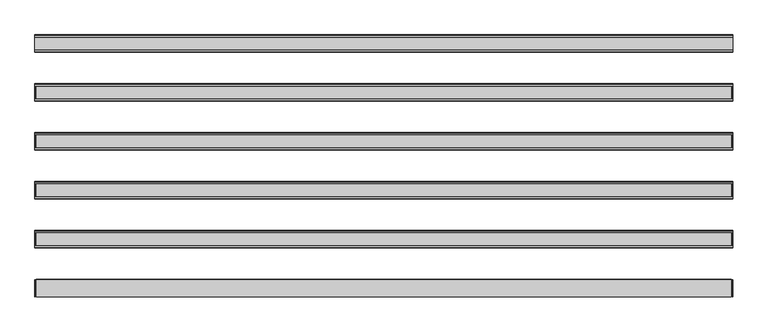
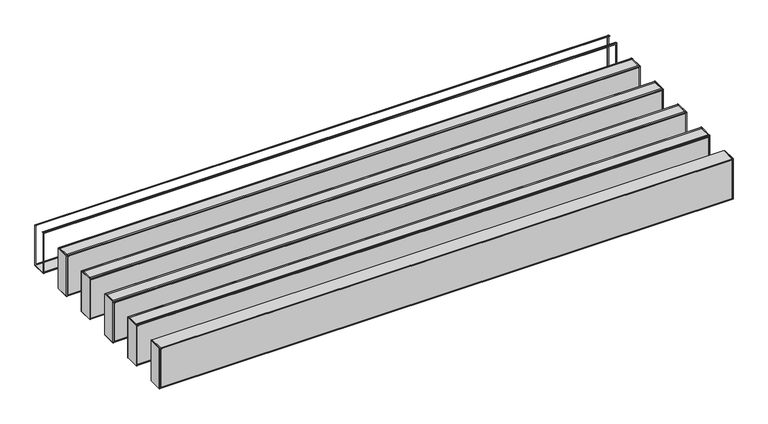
"""IFC4 building model written with IfcOpenShell, lengths in millimetres: proxy geometry, durlum_POLYLAM_KS : durlum_POLYLAM-KS/-S 100 RV-L6."""

from ifc_helpers import new_model, si_unit, frame, origin, place, context, project, spatial, polyline, circle_curve, outline, extrude, source, transform, mapped, element, save
from ifc_brep_helpers import plane_surface, cylinder_surface, advanced_brep


def generic_models_4634cb2f(model_context):
    return source(origin(), model_context, "Body", "SolidModel", [
        advanced_brep(
        [(1995.0, 328.0, 1990.9), (1995.0, 318.0, 1990.9), (1995.0, 318.0, 1990.0604454), (1995.0, 329.0, 1990.0604454), (1995.0, 329.0, 1691.9), (1995.0, 231.0, 1691.9), (1995.0, 231.0, 1989.8155735), (1995.0, 242.0, 1989.8155735), (1995.0, 242.0, 1990.9), (1995.0, 232.0, 1990.9), (1995.0, 230.0, 1988.9), (1995.0, 230.0, 1692.9), (1995.0, 232.0, 1690.9), (1995.0, 328.0, 1690.9), (1995.0, 330.0, 1692.9), (1995.0, 330.0, 1988.9), (-1995.0, 328.0, 1990.9), (-1995.0, 330.0, 1988.9), (-1995.0, 330.0, 1692.9), (-1995.0, 328.0, 1690.9), (-1995.0, 232.0, 1690.9), (-1995.0, 230.0, 1692.9), (-1995.0, 230.0, 1988.9), (-1995.0, 232.0, 1990.9), (-1995.0, 242.0, 1990.9), (-1995.0, 242.0, 1989.8155735), (-1995.0, 231.0, 1989.8155735), (-1995.0, 231.0, 1691.9), (-1995.0, 329.0, 1691.9), (-1995.0, 329.0, 1990.0604454), (-1995.0, 318.0, 1990.0604454), (-1995.0, 318.0, 1990.9), (-1986.5, 329.0, 1982.4), (1986.5, 329.0, 1982.4), (1986.5, 329.0, 1699.4), (-1986.5, 329.0, 1699.4), (1986.5, 231.0, 1982.4), (-1986.5, 231.0, 1982.4), (-1986.5, 231.0, 1699.4), (1986.5, 231.0, 1699.4), (-1986.5, 230.0, 1982.4), (1986.5, 230.0, 1982.4), (1986.5, 230.0, 1699.4), (-1986.5, 230.0, 1699.4), (1986.5, 330.0, 1982.4), (-1986.5, 330.0, 1982.4), (-1986.5, 330.0, 1699.4), (1986.5, 330.0, 1699.4)],
        [
            (0, 1),
            (1, 2),
            (2, 3),
            (3, 4),
            (4, 5),
            (5, 6),
            (6, 7),
            (7, 8),
            (8, 9),
            (9, 10, circle_curve(frame((1995.0, 232.0, 1988.9), z_axis=(1.0, 0.0, 0.0), x_axis=(0.0, 1.0, 0.0)), 2.0)),
            (10, 11),
            (11, 12, circle_curve(frame((1995.0, 232.0, 1692.9), z_axis=(1.0, 0.0, 0.0), x_axis=(0.0, 1.0, 0.0)), 2.0)),
            (12, 13),
            (13, 14, circle_curve(frame((1995.0, 328.0, 1692.9), z_axis=(1.0, 0.0, 0.0), x_axis=(0.0, 1.0, 0.0)), 2.0)),
            (14, 15),
            (15, 0, circle_curve(frame((1995.0, 328.0, 1988.9), z_axis=(1.0, 0.0, 0.0), x_axis=(0.0, 1.0, 0.0)), 2.0)),
            (16, 17, circle_curve(frame((-1995.0, 328.0, 1988.9), z_axis=(-1.0, 0.0, 0.0), x_axis=(0.0, 1.0, 0.0)), 2.0)),
            (17, 18),
            (18, 19, circle_curve(frame((-1995.0, 328.0, 1692.9), z_axis=(-1.0, 0.0, 0.0), x_axis=(0.0, 1.0, 0.0)), 2.0)),
            (19, 20),
            (20, 21, circle_curve(frame((-1995.0, 232.0, 1692.9), z_axis=(-1.0, 0.0, 0.0), x_axis=(0.0, 1.0, 0.0)), 2.0)),
            (21, 22),
            (22, 23, circle_curve(frame((-1995.0, 232.0, 1988.9), z_axis=(-1.0, 0.0, 0.0), x_axis=(0.0, 1.0, 0.0)), 2.0)),
            (23, 24),
            (24, 25),
            (25, 26),
            (26, 27),
            (27, 28),
            (28, 29),
            (29, 30),
            (30, 31),
            (31, 16),
            (0, 16),
            (31, 1),
            (30, 2),
            (29, 3),
            (28, 4),
            (32, 33),
            (33, 34),
            (34, 35),
            (35, 32),
            (27, 5),
            (26, 6),
            (36, 37),
            (37, 38),
            (38, 39),
            (39, 36),
            (25, 7),
            (24, 8),
            (23, 9),
            (10, 22),
            (21, 11),
            (40, 41),
            (41, 42),
            (42, 43),
            (43, 40),
            (12, 20),
            (19, 13),
            (14, 18),
            (17, 15),
            (44, 45),
            (45, 46),
            (46, 47),
            (47, 44),
            (44, 33),
            (32, 45),
            (36, 41),
            (40, 37),
            (35, 46),
            (43, 38),
            (34, 47),
            (42, 39),
        ],
        [
            plane_surface(frame((1995.0, 318.0, 1990.9), z_axis=(1.0, 0.0, 0.0), x_axis=(0.0, -1.0, 0.0))),
            plane_surface(frame((-1995.0, 318.0, 1990.9), z_axis=(-1.0, 0.0, 0.0), x_axis=(0.0, 1.0, 0.0))),
            plane_surface(frame((1995.0, 328.0, 1990.9), z_axis=(0.0, 0.0, 1.0), x_axis=(-1.0, 0.0, 0.0))),
            plane_surface(frame((1995.0, 318.0, 1990.9), z_axis=(0.0, -1.0, 0.0), x_axis=(-1.0, 0.0, 0.0))),
            plane_surface(frame((1995.0, 318.0, 1990.0604454), z_axis=(0.0, 0.0, -1.0), x_axis=(-1.0, 0.0, 0.0))),
            plane_surface(frame((1995.0, 329.0, 1990.0604454), z_axis=(0.0, -1.0, 0.0), x_axis=(-1.0, 0.0, 0.0))),
            plane_surface(frame((1995.0, 329.0, 1691.9), z_axis=(0.0, 0.0, 1.0), x_axis=(-1.0, 0.0, 0.0))),
            plane_surface(frame((1995.0, 231.0, 1691.9), z_axis=(0.0, 1.0, 0.0), x_axis=(-1.0, 0.0, 0.0))),
            plane_surface(frame((1995.0, 231.0, 1989.8155735), z_axis=(0.0, 0.0, -1.0), x_axis=(-1.0, 0.0, 0.0))),
            plane_surface(frame((1995.0, 242.0, 1989.8155735), z_axis=(0.0, 1.0, 0.0), x_axis=(-1.0, 0.0, 0.0))),
            plane_surface(frame((1995.0, 242.0, 1990.9), z_axis=(0.0, 0.0, 1.0), x_axis=(-1.0, 0.0, 0.0))),
            plane_surface(frame((1995.0, 230.0, 1988.9), z_axis=(0.0, -1.0, 0.0), x_axis=(-1.0, 0.0, 0.0))),
            plane_surface(frame((1995.0, 232.0, 1690.9), z_axis=(0.0, 0.0, -1.0), x_axis=(-1.0, 0.0, 0.0))),
            plane_surface(frame((1995.0, 330.0, 1692.9), z_axis=(0.0, 1.0, 0.0), x_axis=(-1.0, 0.0, 0.0))),
            cylinder_surface(frame((-1995.0, 232.0, 1988.9), z_axis=(1.0, 0.0, 0.0), x_axis=(0.0, 1.0, 0.0)), 2.0),
            cylinder_surface(frame((-1995.0, 232.0, 1692.9), z_axis=(1.0, 0.0, 0.0), x_axis=(0.0, 1.0, 0.0)), 2.0),
            cylinder_surface(frame((-1995.0, 328.0, 1692.9), z_axis=(1.0, 0.0, 0.0), x_axis=(0.0, 1.0, 0.0)), 2.0),
            cylinder_surface(frame((-1995.0, 328.0, 1988.9), z_axis=(1.0, 0.0, 0.0), x_axis=(0.0, 1.0, 0.0)), 2.0),
            plane_surface(frame((1986.5, 230.0, 1982.4), z_axis=(0.0, 0.0, -1.0), x_axis=(0.0, 1.0, 0.0))),
            plane_surface(frame((-1986.5, 230.0, 1982.4), z_axis=(1.0, 0.0, 0.0), x_axis=(0.0, 1.0, 0.0))),
            plane_surface(frame((-1986.5, 230.0, 1699.4), z_axis=(0.0, 0.0, 1.0), x_axis=(0.0, 1.0, 0.0))),
            plane_surface(frame((1986.5, 230.0, 1699.4), z_axis=(-1.0, 0.0, 0.0), x_axis=(0.0, 1.0, 0.0))),
        ],
        [
            (0, [[1, 2, 3, 4, 5, 6, 7, 8, 9, 10, 11, 12, 13, 14, 15, 16]]),
            (1, [[17, 18, 19, 20, 21, 22, 23, 24, 25, 26, 27, 28, 29, 30, 31, 32]]),
            (2, [[-1, 33, -32, 34]]),
            (3, [[-2, -34, -31, 35]]),
            (4, [[-3, -35, -30, 36]]),
            (5, [[-4, -36, -29, 37], [38, 39, 40, 41]]),
            (6, [[-5, -37, -28, 42]]),
            (7, [[-6, -42, -27, 43], [44, 45, 46, 47]]),
            (8, [[-7, -43, -26, 48]]),
            (9, [[-8, -48, -25, 49]]),
            (10, [[-9, -49, -24, 50]]),
            (11, [[-11, 51, -22, 52], [53, 54, 55, 56]]),
            (12, [[-13, 57, -20, 58]]),
            (13, [[-15, 59, -18, 60], [61, 62, 63, 64]]),
            (14, [[-10, -50, -23, -51]]),
            (15, [[-12, -52, -21, -57]]),
            (16, [[-14, -58, -19, -59]]),
            (17, [[-16, -60, -17, -33]]),
            (18, [[65, -38, 66, -61]]),
            (18, [[67, -53, 68, -44]]),
            (19, [[-66, -41, 69, -62]]),
            (19, [[-68, -56, 70, -45]]),
            (20, [[-69, -40, 71, -63]]),
            (20, [[-70, -55, 72, -46]]),
            (21, [[-65, -64, -71, -39]]),
            (21, [[-67, -47, -72, -54]]),
        ],
    ),
        extrude(outline(polyline([(1993.0, 49.0), (1995.0, 49.0), (1995.0, -49.0), (1993.0, -49.0), (1993.0, 49.0)])), frame((0.0, 0.0, 1691.9), z_axis=(0.0, 0.0, 1.0), x_axis=(1.0, 0.0, 0.0)), (0.0, 0.0, 1.0), 298.1604454),
        extrude(outline(polyline([(-1995.0, 49.0), (-1993.0, 49.0), (-1993.0, -49.0), (-1995.0, -49.0), (-1995.0, 49.0)])), frame((0.0, 0.0, 1691.9), z_axis=(0.0, 0.0, 1.0), x_axis=(1.0, 0.0, 0.0)), (0.0, 0.0, 1.0), 298.1604454),
        extrude(outline(polyline([(1986.5, 49.0), (1986.5, -49.0), (-1986.5, -49.0), (-1986.5, 49.0), (1986.5, 49.0)])), frame((0.0, 0.0, 1691.9), z_axis=(0.0, 0.0, 1.0), x_axis=(1.0, 0.0, 0.0)), (0.0, 0.0, 1.0), 298.0),
        extrude(outline(polyline([(1986.5, 49.0), (-1986.5, 49.0), (-1986.5, 50.0), (1986.5, 50.0), (1986.5, 49.0)])), frame((0.0, 0.0, 1699.4), z_axis=(0.0, 0.0, 1.0), x_axis=(1.0, 0.0, 0.0)), (0.0, 0.0, 1.0), 283.0),
        extrude(outline(polyline([(1986.5, -50.0), (-1986.5, -50.0), (-1986.5, -49.0), (1986.5, -49.0), (1986.5, -50.0)])), frame((0.0, 0.0, 1699.4), z_axis=(0.0, 0.0, 1.0), x_axis=(1.0, 0.0, 0.0)), (0.0, 0.0, 1.0), 283.0),
        advanced_brep(
        [(1995.0, 48.0, 1990.9), (1995.0, 38.0, 1990.9), (1995.0, 38.0, 1990.0604454), (1995.0, 49.0, 1990.0604454), (1995.0, 49.0, 1691.9), (1995.0, -49.0, 1691.9), (1995.0, -49.0, 1989.8155735), (1995.0, -38.0, 1989.8155735), (1995.0, -38.0, 1990.9), (1995.0, -48.0, 1990.9), (1995.0, -50.0, 1988.9), (1995.0, -50.0, 1692.9), (1995.0, -48.0, 1690.9), (1995.0, 48.0, 1690.9), (1995.0, 50.0, 1692.9), (1995.0, 50.0, 1988.9), (-1995.0, 48.0, 1990.9), (-1995.0, 50.0, 1988.9), (-1995.0, 50.0, 1692.9), (-1995.0, 48.0, 1690.9), (-1995.0, -48.0, 1690.9), (-1995.0, -50.0, 1692.9), (-1995.0, -50.0, 1988.9), (-1995.0, -48.0, 1990.9), (-1995.0, -38.0, 1990.9), (-1995.0, -38.0, 1989.8155735), (-1995.0, -49.0, 1989.8155735), (-1995.0, -49.0, 1691.9), (-1995.0, 49.0, 1691.9), (-1995.0, 49.0, 1990.0604454), (-1995.0, 38.0, 1990.0604454), (-1995.0, 38.0, 1990.9), (-1986.5, 49.0, 1982.4), (1986.5, 49.0, 1982.4), (1986.5, 49.0, 1699.4), (-1986.5, 49.0, 1699.4), (1986.5, -49.0, 1982.4), (-1986.5, -49.0, 1982.4), (-1986.5, -49.0, 1699.4), (1986.5, -49.0, 1699.4), (-1986.5, -50.0, 1982.4), (1986.5, -50.0, 1982.4), (1986.5, -50.0, 1699.4), (-1986.5, -50.0, 1699.4), (1986.5, 50.0, 1982.4), (-1986.5, 50.0, 1982.4), (-1986.5, 50.0, 1699.4), (1986.5, 50.0, 1699.4)],
        [
            (0, 1),
            (1, 2),
            (2, 3),
            (3, 4),
            (4, 5),
            (5, 6),
            (6, 7),
            (7, 8),
            (8, 9),
            (9, 10, circle_curve(frame((1995.0, -48.0, 1988.9), z_axis=(1.0, 0.0, 0.0), x_axis=(0.0, 1.0, 0.0)), 2.0)),
            (10, 11),
            (11, 12, circle_curve(frame((1995.0, -48.0, 1692.9), z_axis=(1.0, 0.0, 0.0), x_axis=(0.0, 1.0, 0.0)), 2.0)),
            (12, 13),
            (13, 14, circle_curve(frame((1995.0, 48.0, 1692.9), z_axis=(1.0, 0.0, 0.0), x_axis=(0.0, 1.0, 0.0)), 2.0)),
            (14, 15),
            (15, 0, circle_curve(frame((1995.0, 48.0, 1988.9), z_axis=(1.0, 0.0, 0.0), x_axis=(0.0, 1.0, 0.0)), 2.0)),
            (16, 17, circle_curve(frame((-1995.0, 48.0, 1988.9), z_axis=(-1.0, 0.0, 0.0), x_axis=(0.0, 1.0, 0.0)), 2.0)),
            (17, 18),
            (18, 19, circle_curve(frame((-1995.0, 48.0, 1692.9), z_axis=(-1.0, 0.0, 0.0), x_axis=(0.0, 1.0, 0.0)), 2.0)),
            (19, 20),
            (20, 21, circle_curve(frame((-1995.0, -48.0, 1692.9), z_axis=(-1.0, 0.0, 0.0), x_axis=(0.0, 1.0, 0.0)), 2.0)),
            (21, 22),
            (22, 23, circle_curve(frame((-1995.0, -48.0, 1988.9), z_axis=(-1.0, 0.0, 0.0), x_axis=(0.0, 1.0, 0.0)), 2.0)),
            (23, 24),
            (24, 25),
            (25, 26),
            (26, 27),
            (27, 28),
            (28, 29),
            (29, 30),
            (30, 31),
            (31, 16),
            (0, 16),
            (31, 1),
            (30, 2),
            (29, 3),
            (28, 4),
            (32, 33),
            (33, 34),
            (34, 35),
            (35, 32),
            (27, 5),
            (26, 6),
            (36, 37),
            (37, 38),
            (38, 39),
            (39, 36),
            (25, 7),
            (24, 8),
            (23, 9),
            (10, 22),
            (21, 11),
            (40, 41),
            (41, 42),
            (42, 43),
            (43, 40),
            (12, 20),
            (19, 13),
            (14, 18),
            (17, 15),
            (44, 45),
            (45, 46),
            (46, 47),
            (47, 44),
            (44, 33),
            (32, 45),
            (36, 41),
            (40, 37),
            (35, 46),
            (43, 38),
            (34, 47),
            (42, 39),
        ],
        [
            plane_surface(frame((1995.0, 38.0, 1990.9), z_axis=(1.0, 0.0, 0.0), x_axis=(0.0, -1.0, 0.0))),
            plane_surface(frame((-1995.0, 38.0, 1990.9), z_axis=(-1.0, 0.0, 0.0), x_axis=(0.0, 1.0, 0.0))),
            plane_surface(frame((1995.0, 48.0, 1990.9), z_axis=(0.0, 0.0, 1.0), x_axis=(-1.0, 0.0, 0.0))),
            plane_surface(frame((1995.0, 38.0, 1990.9), z_axis=(0.0, -1.0, 0.0), x_axis=(-1.0, 0.0, 0.0))),
            plane_surface(frame((1995.0, 38.0, 1990.0604454), z_axis=(0.0, 0.0, -1.0), x_axis=(-1.0, 0.0, 0.0))),
            plane_surface(frame((1995.0, 49.0, 1990.0604454), z_axis=(0.0, -1.0, 0.0), x_axis=(-1.0, 0.0, 0.0))),
            plane_surface(frame((1995.0, 49.0, 1691.9), z_axis=(0.0, 0.0, 1.0), x_axis=(-1.0, 0.0, 0.0))),
            plane_surface(frame((1995.0, -49.0, 1691.9), z_axis=(0.0, 1.0, 0.0), x_axis=(-1.0, 0.0, 0.0))),
            plane_surface(frame((1995.0, -49.0, 1989.8155735), z_axis=(0.0, 0.0, -1.0), x_axis=(-1.0, 0.0, 0.0))),
            plane_surface(frame((1995.0, -38.0, 1989.8155735), z_axis=(0.0, 1.0, 0.0), x_axis=(-1.0, 0.0, 0.0))),
            plane_surface(frame((1995.0, -38.0, 1990.9), z_axis=(0.0, 0.0, 1.0), x_axis=(-1.0, 0.0, 0.0))),
            plane_surface(frame((1995.0, -50.0, 1988.9), z_axis=(0.0, -1.0, 0.0), x_axis=(-1.0, 0.0, 0.0))),
            plane_surface(frame((1995.0, -48.0, 1690.9), z_axis=(0.0, 0.0, -1.0), x_axis=(-1.0, 0.0, 0.0))),
            plane_surface(frame((1995.0, 50.0, 1692.9), z_axis=(0.0, 1.0, 0.0), x_axis=(-1.0, 0.0, 0.0))),
            cylinder_surface(frame((-1995.0, -48.0, 1988.9), z_axis=(1.0, 0.0, 0.0), x_axis=(0.0, 1.0, 0.0)), 2.0),
            cylinder_surface(frame((-1995.0, -48.0, 1692.9), z_axis=(1.0, 0.0, 0.0), x_axis=(0.0, 1.0, 0.0)), 2.0),
            cylinder_surface(frame((-1995.0, 48.0, 1692.9), z_axis=(1.0, 0.0, 0.0), x_axis=(0.0, 1.0, 0.0)), 2.0),
            cylinder_surface(frame((-1995.0, 48.0, 1988.9), z_axis=(1.0, 0.0, 0.0), x_axis=(0.0, 1.0, 0.0)), 2.0),
            plane_surface(frame((1986.5, -50.0, 1982.4), z_axis=(0.0, 0.0, -1.0), x_axis=(0.0, 1.0, 0.0))),
            plane_surface(frame((-1986.5, -50.0, 1982.4), z_axis=(1.0, 0.0, 0.0), x_axis=(0.0, 1.0, 0.0))),
            plane_surface(frame((-1986.5, -50.0, 1699.4), z_axis=(0.0, 0.0, 1.0), x_axis=(0.0, 1.0, 0.0))),
            plane_surface(frame((1986.5, -50.0, 1699.4), z_axis=(-1.0, 0.0, 0.0), x_axis=(0.0, 1.0, 0.0))),
        ],
        [
            (0, [[1, 2, 3, 4, 5, 6, 7, 8, 9, 10, 11, 12, 13, 14, 15, 16]]),
            (1, [[17, 18, 19, 20, 21, 22, 23, 24, 25, 26, 27, 28, 29, 30, 31, 32]]),
            (2, [[-1, 33, -32, 34]]),
            (3, [[-2, -34, -31, 35]]),
            (4, [[-3, -35, -30, 36]]),
            (5, [[-4, -36, -29, 37], [38, 39, 40, 41]]),
            (6, [[-5, -37, -28, 42]]),
            (7, [[-6, -42, -27, 43], [44, 45, 46, 47]]),
            (8, [[-7, -43, -26, 48]]),
            (9, [[-8, -48, -25, 49]]),
            (10, [[-9, -49, -24, 50]]),
            (11, [[-11, 51, -22, 52], [53, 54, 55, 56]]),
            (12, [[-13, 57, -20, 58]]),
            (13, [[-15, 59, -18, 60], [61, 62, 63, 64]]),
            (14, [[-10, -50, -23, -51]]),
            (15, [[-12, -52, -21, -57]]),
            (16, [[-14, -58, -19, -59]]),
            (17, [[-16, -60, -17, -33]]),
            (18, [[65, -38, 66, -61]]),
            (18, [[67, -53, 68, -44]]),
            (19, [[-66, -41, 69, -62]]),
            (19, [[-68, -56, 70, -45]]),
            (20, [[-69, -40, 71, -63]]),
            (20, [[-70, -55, 72, -46]]),
            (21, [[-65, -64, -71, -39]]),
            (21, [[-67, -47, -72, -54]]),
        ],
    ),
        extrude(outline(polyline([(1993.0, -231.0), (1995.0, -231.0), (1995.0, -329.0), (1993.0, -329.0), (1993.0, -231.0)])), frame((0.0, 0.0, 1691.9), z_axis=(0.0, 0.0, 1.0), x_axis=(1.0, 0.0, 0.0)), (0.0, 0.0, 1.0), 298.1604454),
        extrude(outline(polyline([(-1995.0, -231.0), (-1993.0, -231.0), (-1993.0, -329.0), (-1995.0, -329.0), (-1995.0, -231.0)])), frame((0.0, 0.0, 1691.9), z_axis=(0.0, 0.0, 1.0), x_axis=(1.0, 0.0, 0.0)), (0.0, 0.0, 1.0), 298.1604454),
        extrude(outline(polyline([(1986.5, -231.0), (1986.5, -329.0), (-1986.5, -329.0), (-1986.5, -231.0), (1986.5, -231.0)])), frame((0.0, 0.0, 1691.9), z_axis=(0.0, 0.0, 1.0), x_axis=(1.0, 0.0, 0.0)), (0.0, 0.0, 1.0), 298.0),
        extrude(outline(polyline([(1986.5, -231.0), (-1986.5, -231.0), (-1986.5, -230.0), (1986.5, -230.0), (1986.5, -231.0)])), frame((0.0, 0.0, 1699.4), z_axis=(0.0, 0.0, 1.0), x_axis=(1.0, 0.0, 0.0)), (0.0, 0.0, 1.0), 283.0),
        extrude(outline(polyline([(1986.5, -330.0), (-1986.5, -330.0), (-1986.5, -329.0), (1986.5, -329.0), (1986.5, -330.0)])), frame((0.0, 0.0, 1699.4), z_axis=(0.0, 0.0, 1.0), x_axis=(1.0, 0.0, 0.0)), (0.0, 0.0, 1.0), 283.0),
        advanced_brep(
        [(1995.0, -232.0, 1990.9), (1995.0, -242.0, 1990.9), (1995.0, -242.0, 1990.0604454), (1995.0, -231.0, 1990.0604454), (1995.0, -231.0, 1691.9), (1995.0, -329.0, 1691.9), (1995.0, -329.0, 1989.8155735), (1995.0, -318.0, 1989.8155735), (1995.0, -318.0, 1990.9), (1995.0, -328.0, 1990.9), (1995.0, -330.0, 1988.9), (1995.0, -330.0, 1692.9), (1995.0, -328.0, 1690.9), (1995.0, -232.0, 1690.9), (1995.0, -230.0, 1692.9), (1995.0, -230.0, 1988.9), (-1995.0, -232.0, 1990.9), (-1995.0, -230.0, 1988.9), (-1995.0, -230.0, 1692.9), (-1995.0, -232.0, 1690.9), (-1995.0, -328.0, 1690.9), (-1995.0, -330.0, 1692.9), (-1995.0, -330.0, 1988.9), (-1995.0, -328.0, 1990.9), (-1995.0, -318.0, 1990.9), (-1995.0, -318.0, 1989.8155735), (-1995.0, -329.0, 1989.8155735), (-1995.0, -329.0, 1691.9), (-1995.0, -231.0, 1691.9), (-1995.0, -231.0, 1990.0604454), (-1995.0, -242.0, 1990.0604454), (-1995.0, -242.0, 1990.9), (-1986.5, -231.0, 1982.4), (1986.5, -231.0, 1982.4), (1986.5, -231.0, 1699.4), (-1986.5, -231.0, 1699.4), (1986.5, -329.0, 1982.4), (-1986.5, -329.0, 1982.4), (-1986.5, -329.0, 1699.4), (1986.5, -329.0, 1699.4), (-1986.5, -330.0, 1982.4), (1986.5, -330.0, 1982.4), (1986.5, -330.0, 1699.4), (-1986.5, -330.0, 1699.4), (1986.5, -230.0, 1982.4), (-1986.5, -230.0, 1982.4), (-1986.5, -230.0, 1699.4), (1986.5, -230.0, 1699.4)],
        [
            (0, 1),
            (1, 2),
            (2, 3),
            (3, 4),
            (4, 5),
            (5, 6),
            (6, 7),
            (7, 8),
            (8, 9),
            (9, 10, circle_curve(frame((1995.0, -328.0, 1988.9), z_axis=(1.0, 0.0, 0.0), x_axis=(0.0, 1.0, 0.0)), 2.0)),
            (10, 11),
            (11, 12, circle_curve(frame((1995.0, -328.0, 1692.9), z_axis=(1.0, 0.0, 0.0), x_axis=(0.0, 1.0, 0.0)), 2.0)),
            (12, 13),
            (13, 14, circle_curve(frame((1995.0, -232.0, 1692.9), z_axis=(1.0, 0.0, 0.0), x_axis=(0.0, 1.0, 0.0)), 2.0)),
            (14, 15),
            (15, 0, circle_curve(frame((1995.0, -232.0, 1988.9), z_axis=(1.0, 0.0, 0.0), x_axis=(0.0, 1.0, 0.0)), 2.0)),
            (16, 17, circle_curve(frame((-1995.0, -232.0, 1988.9), z_axis=(-1.0, 0.0, 0.0), x_axis=(0.0, 1.0, 0.0)), 2.0)),
            (17, 18),
            (18, 19, circle_curve(frame((-1995.0, -232.0, 1692.9), z_axis=(-1.0, 0.0, 0.0), x_axis=(0.0, 1.0, 0.0)), 2.0)),
            (19, 20),
            (20, 21, circle_curve(frame((-1995.0, -328.0, 1692.9), z_axis=(-1.0, 0.0, 0.0), x_axis=(0.0, 1.0, 0.0)), 2.0)),
            (21, 22),
            (22, 23, circle_curve(frame((-1995.0, -328.0, 1988.9), z_axis=(-1.0, 0.0, 0.0), x_axis=(0.0, 1.0, 0.0)), 2.0)),
            (23, 24),
            (24, 25),
            (25, 26),
            (26, 27),
            (27, 28),
            (28, 29),
            (29, 30),
            (30, 31),
            (31, 16),
            (0, 16),
            (31, 1),
            (30, 2),
            (29, 3),
            (28, 4),
            (32, 33),
            (33, 34),
            (34, 35),
            (35, 32),
            (27, 5),
            (26, 6),
            (36, 37),
            (37, 38),
            (38, 39),
            (39, 36),
            (25, 7),
            (24, 8),
            (23, 9),
            (10, 22),
            (21, 11),
            (40, 41),
            (41, 42),
            (42, 43),
            (43, 40),
            (12, 20),
            (19, 13),
            (14, 18),
            (17, 15),
            (44, 45),
            (45, 46),
            (46, 47),
            (47, 44),
            (44, 33),
            (32, 45),
            (36, 41),
            (40, 37),
            (35, 46),
            (43, 38),
            (34, 47),
            (42, 39),
        ],
        [
            plane_surface(frame((1995.0, -242.0, 1990.9), z_axis=(1.0, 0.0, 0.0), x_axis=(0.0, -1.0, 0.0))),
            plane_surface(frame((-1995.0, -242.0, 1990.9), z_axis=(-1.0, 0.0, 0.0), x_axis=(0.0, 1.0, 0.0))),
            plane_surface(frame((1995.0, -232.0, 1990.9), z_axis=(0.0, 0.0, 1.0), x_axis=(-1.0, 0.0, 0.0))),
            plane_surface(frame((1995.0, -242.0, 1990.9), z_axis=(0.0, -1.0, 0.0), x_axis=(-1.0, 0.0, 0.0))),
            plane_surface(frame((1995.0, -242.0, 1990.0604454), z_axis=(0.0, 0.0, -1.0), x_axis=(-1.0, 0.0, 0.0))),
            plane_surface(frame((1995.0, -231.0, 1990.0604454), z_axis=(0.0, -1.0, 0.0), x_axis=(-1.0, 0.0, 0.0))),
            plane_surface(frame((1995.0, -231.0, 1691.9), z_axis=(0.0, 0.0, 1.0), x_axis=(-1.0, 0.0, 0.0))),
            plane_surface(frame((1995.0, -329.0, 1691.9), z_axis=(0.0, 1.0, 0.0), x_axis=(-1.0, 0.0, 0.0))),
            plane_surface(frame((1995.0, -329.0, 1989.8155735), z_axis=(0.0, 0.0, -1.0), x_axis=(-1.0, 0.0, 0.0))),
            plane_surface(frame((1995.0, -318.0, 1989.8155735), z_axis=(0.0, 1.0, 0.0), x_axis=(-1.0, 0.0, 0.0))),
            plane_surface(frame((1995.0, -318.0, 1990.9), z_axis=(0.0, 0.0, 1.0), x_axis=(-1.0, 0.0, 0.0))),
            plane_surface(frame((1995.0, -330.0, 1988.9), z_axis=(0.0, -1.0, 0.0), x_axis=(-1.0, 0.0, 0.0))),
            plane_surface(frame((1995.0, -328.0, 1690.9), z_axis=(0.0, 0.0, -1.0), x_axis=(-1.0, 0.0, 0.0))),
            plane_surface(frame((1995.0, -230.0, 1692.9), z_axis=(0.0, 1.0, 0.0), x_axis=(-1.0, 0.0, 0.0))),
            cylinder_surface(frame((-1995.0, -328.0, 1988.9), z_axis=(1.0, 0.0, 0.0), x_axis=(0.0, 1.0, 0.0)), 2.0),
            cylinder_surface(frame((-1995.0, -328.0, 1692.9), z_axis=(1.0, 0.0, 0.0), x_axis=(0.0, 1.0, 0.0)), 2.0),
            cylinder_surface(frame((-1995.0, -232.0, 1692.9), z_axis=(1.0, 0.0, 0.0), x_axis=(0.0, 1.0, 0.0)), 2.0),
            cylinder_surface(frame((-1995.0, -232.0, 1988.9), z_axis=(1.0, 0.0, 0.0), x_axis=(0.0, 1.0, 0.0)), 2.0),
            plane_surface(frame((1986.5, -330.0, 1982.4), z_axis=(0.0, 0.0, -1.0), x_axis=(0.0, 1.0, 0.0))),
            plane_surface(frame((-1986.5, -330.0, 1982.4), z_axis=(1.0, 0.0, 0.0), x_axis=(0.0, 1.0, 0.0))),
            plane_surface(frame((-1986.5, -330.0, 1699.4), z_axis=(0.0, 0.0, 1.0), x_axis=(0.0, 1.0, 0.0))),
            plane_surface(frame((1986.5, -330.0, 1699.4), z_axis=(-1.0, 0.0, 0.0), x_axis=(0.0, 1.0, 0.0))),
        ],
        [
            (0, [[1, 2, 3, 4, 5, 6, 7, 8, 9, 10, 11, 12, 13, 14, 15, 16]]),
            (1, [[17, 18, 19, 20, 21, 22, 23, 24, 25, 26, 27, 28, 29, 30, 31, 32]]),
            (2, [[-1, 33, -32, 34]]),
            (3, [[-2, -34, -31, 35]]),
            (4, [[-3, -35, -30, 36]]),
            (5, [[-4, -36, -29, 37], [38, 39, 40, 41]]),
            (6, [[-5, -37, -28, 42]]),
            (7, [[-6, -42, -27, 43], [44, 45, 46, 47]]),
            (8, [[-7, -43, -26, 48]]),
            (9, [[-8, -48, -25, 49]]),
            (10, [[-9, -49, -24, 50]]),
            (11, [[-11, 51, -22, 52], [53, 54, 55, 56]]),
            (12, [[-13, 57, -20, 58]]),
            (13, [[-15, 59, -18, 60], [61, 62, 63, 64]]),
            (14, [[-10, -50, -23, -51]]),
            (15, [[-12, -52, -21, -57]]),
            (16, [[-14, -58, -19, -59]]),
            (17, [[-16, -60, -17, -33]]),
            (18, [[65, -38, 66, -61]]),
            (18, [[67, -53, 68, -44]]),
            (19, [[-66, -41, 69, -62]]),
            (19, [[-68, -56, 70, -45]]),
            (20, [[-69, -40, 71, -63]]),
            (20, [[-70, -55, 72, -46]]),
            (21, [[-65, -64, -71, -39]]),
            (21, [[-67, -47, -72, -54]]),
        ],
    ),
        extrude(outline(polyline([(1993.0, -511.0), (1995.0, -511.0), (1995.0, -609.0), (1993.0, -609.0), (1993.0, -511.0)])), frame((0.0, 0.0, 1691.9), z_axis=(0.0, 0.0, 1.0), x_axis=(1.0, 0.0, 0.0)), (0.0, 0.0, 1.0), 298.1604454),
        extrude(outline(polyline([(-1995.0, -511.0), (-1993.0, -511.0), (-1993.0, -609.0), (-1995.0, -609.0), (-1995.0, -511.0)])), frame((0.0, 0.0, 1691.9), z_axis=(0.0, 0.0, 1.0), x_axis=(1.0, 0.0, 0.0)), (0.0, 0.0, 1.0), 298.1604454),
        extrude(outline(polyline([(1986.5, -511.0), (1986.5, -609.0), (-1986.5, -609.0), (-1986.5, -511.0), (1986.5, -511.0)])), frame((0.0, 0.0, 1691.9), z_axis=(0.0, 0.0, 1.0), x_axis=(1.0, 0.0, 0.0)), (0.0, 0.0, 1.0), 298.0),
        extrude(outline(polyline([(1986.5, -511.0), (-1986.5, -511.0), (-1986.5, -510.0), (1986.5, -510.0), (1986.5, -511.0)])), frame((0.0, 0.0, 1699.4), z_axis=(0.0, 0.0, 1.0), x_axis=(1.0, 0.0, 0.0)), (0.0, 0.0, 1.0), 283.0),
        extrude(outline(polyline([(1986.5, -610.0), (-1986.5, -610.0), (-1986.5, -609.0), (1986.5, -609.0), (1986.5, -610.0)])), frame((0.0, 0.0, 1699.4), z_axis=(0.0, 0.0, 1.0), x_axis=(1.0, 0.0, 0.0)), (0.0, 0.0, 1.0), 283.0),
        advanced_brep(
        [(1995.0, -512.0, 1990.9), (1995.0, -522.0, 1990.9), (1995.0, -522.0, 1990.0604454), (1995.0, -511.0, 1990.0604454), (1995.0, -511.0, 1691.9), (1995.0, -609.0, 1691.9), (1995.0, -609.0, 1989.8155735), (1995.0, -598.0, 1989.8155735), (1995.0, -598.0, 1990.9), (1995.0, -608.0, 1990.9), (1995.0, -610.0, 1988.9), (1995.0, -610.0, 1692.9), (1995.0, -608.0, 1690.9), (1995.0, -512.0, 1690.9), (1995.0, -510.0, 1692.9), (1995.0, -510.0, 1988.9), (-1995.0, -512.0, 1990.9), (-1995.0, -510.0, 1988.9), (-1995.0, -510.0, 1692.9), (-1995.0, -512.0, 1690.9), (-1995.0, -608.0, 1690.9), (-1995.0, -610.0, 1692.9), (-1995.0, -610.0, 1988.9), (-1995.0, -608.0, 1990.9), (-1995.0, -598.0, 1990.9), (-1995.0, -598.0, 1989.8155735), (-1995.0, -609.0, 1989.8155735), (-1995.0, -609.0, 1691.9), (-1995.0, -511.0, 1691.9), (-1995.0, -511.0, 1990.0604454), (-1995.0, -522.0, 1990.0604454), (-1995.0, -522.0, 1990.9), (-1986.5, -511.0, 1982.4), (1986.5, -511.0, 1982.4), (1986.5, -511.0, 1699.4), (-1986.5, -511.0, 1699.4), (1986.5, -609.0, 1982.4), (-1986.5, -609.0, 1982.4), (-1986.5, -609.0, 1699.4), (1986.5, -609.0, 1699.4), (-1986.5, -610.0, 1982.4), (1986.5, -610.0, 1982.4), (1986.5, -610.0, 1699.4), (-1986.5, -610.0, 1699.4), (1986.5, -510.0, 1982.4), (-1986.5, -510.0, 1982.4), (-1986.5, -510.0, 1699.4), (1986.5, -510.0, 1699.4)],
        [
            (0, 1),
            (1, 2),
            (2, 3),
            (3, 4),
            (4, 5),
            (5, 6),
            (6, 7),
            (7, 8),
            (8, 9),
            (9, 10, circle_curve(frame((1995.0, -608.0, 1988.9), z_axis=(1.0, 0.0, 0.0), x_axis=(0.0, 1.0, 0.0)), 2.0)),
            (10, 11),
            (11, 12, circle_curve(frame((1995.0, -608.0, 1692.9), z_axis=(1.0, 0.0, 0.0), x_axis=(0.0, 1.0, 0.0)), 2.0)),
            (12, 13),
            (13, 14, circle_curve(frame((1995.0, -512.0, 1692.9), z_axis=(1.0, 0.0, 0.0), x_axis=(0.0, 1.0, 0.0)), 2.0)),
            (14, 15),
            (15, 0, circle_curve(frame((1995.0, -512.0, 1988.9), z_axis=(1.0, 0.0, 0.0), x_axis=(0.0, 1.0, 0.0)), 2.0)),
            (16, 17, circle_curve(frame((-1995.0, -512.0, 1988.9), z_axis=(-1.0, 0.0, 0.0), x_axis=(0.0, 1.0, 0.0)), 2.0)),
            (17, 18),
            (18, 19, circle_curve(frame((-1995.0, -512.0, 1692.9), z_axis=(-1.0, 0.0, 0.0), x_axis=(0.0, 1.0, 0.0)), 2.0)),
            (19, 20),
            (20, 21, circle_curve(frame((-1995.0, -608.0, 1692.9), z_axis=(-1.0, 0.0, 0.0), x_axis=(0.0, 1.0, 0.0)), 2.0)),
            (21, 22),
            (22, 23, circle_curve(frame((-1995.0, -608.0, 1988.9), z_axis=(-1.0, 0.0, 0.0), x_axis=(0.0, 1.0, 0.0)), 2.0)),
            (23, 24),
            (24, 25),
            (25, 26),
            (26, 27),
            (27, 28),
            (28, 29),
            (29, 30),
            (30, 31),
            (31, 16),
            (0, 16),
            (31, 1),
            (30, 2),
            (29, 3),
            (28, 4),
            (32, 33),
            (33, 34),
            (34, 35),
            (35, 32),
            (27, 5),
            (26, 6),
            (36, 37),
            (37, 38),
            (38, 39),
            (39, 36),
            (25, 7),
            (24, 8),
            (23, 9),
            (10, 22),
            (21, 11),
            (40, 41),
            (41, 42),
            (42, 43),
            (43, 40),
            (12, 20),
            (19, 13),
            (14, 18),
            (17, 15),
            (44, 45),
            (45, 46),
            (46, 47),
            (47, 44),
            (44, 33),
            (32, 45),
            (36, 41),
            (40, 37),
            (35, 46),
            (43, 38),
            (34, 47),
            (42, 39),
        ],
        [
            plane_surface(frame((1995.0, -522.0, 1990.9), z_axis=(1.0, 0.0, 0.0), x_axis=(0.0, -1.0, 0.0))),
            plane_surface(frame((-1995.0, -522.0, 1990.9), z_axis=(-1.0, 0.0, 0.0), x_axis=(0.0, 1.0, 0.0))),
            plane_surface(frame((1995.0, -512.0, 1990.9), z_axis=(0.0, 0.0, 1.0), x_axis=(-1.0, 0.0, 0.0))),
            plane_surface(frame((1995.0, -522.0, 1990.9), z_axis=(0.0, -1.0, 0.0), x_axis=(-1.0, 0.0, 0.0))),
            plane_surface(frame((1995.0, -522.0, 1990.0604454), z_axis=(0.0, 0.0, -1.0), x_axis=(-1.0, 0.0, 0.0))),
            plane_surface(frame((1995.0, -511.0, 1990.0604454), z_axis=(0.0, -1.0, 0.0), x_axis=(-1.0, 0.0, 0.0))),
            plane_surface(frame((1995.0, -511.0, 1691.9), z_axis=(0.0, 0.0, 1.0), x_axis=(-1.0, 0.0, 0.0))),
            plane_surface(frame((1995.0, -609.0, 1691.9), z_axis=(0.0, 1.0, 0.0), x_axis=(-1.0, 0.0, 0.0))),
            plane_surface(frame((1995.0, -609.0, 1989.8155735), z_axis=(0.0, 0.0, -1.0), x_axis=(-1.0, 0.0, 0.0))),
            plane_surface(frame((1995.0, -598.0, 1989.8155735), z_axis=(0.0, 1.0, 0.0), x_axis=(-1.0, 0.0, 0.0))),
            plane_surface(frame((1995.0, -598.0, 1990.9), z_axis=(0.0, 0.0, 1.0), x_axis=(-1.0, 0.0, 0.0))),
            plane_surface(frame((1995.0, -610.0, 1988.9), z_axis=(0.0, -1.0, 0.0), x_axis=(-1.0, 0.0, 0.0))),
            plane_surface(frame((1995.0, -608.0, 1690.9), z_axis=(0.0, 0.0, -1.0), x_axis=(-1.0, 0.0, 0.0))),
            plane_surface(frame((1995.0, -510.0, 1692.9), z_axis=(0.0, 1.0, 0.0), x_axis=(-1.0, 0.0, 0.0))),
            cylinder_surface(frame((-1995.0, -608.0, 1988.9), z_axis=(1.0, 0.0, 0.0), x_axis=(0.0, 1.0, 0.0)), 2.0),
            cylinder_surface(frame((-1995.0, -608.0, 1692.9), z_axis=(1.0, 0.0, 0.0), x_axis=(0.0, 1.0, 0.0)), 2.0),
            cylinder_surface(frame((-1995.0, -512.0, 1692.9), z_axis=(1.0, 0.0, 0.0), x_axis=(0.0, 1.0, 0.0)), 2.0),
            cylinder_surface(frame((-1995.0, -512.0, 1988.9), z_axis=(1.0, 0.0, 0.0), x_axis=(0.0, 1.0, 0.0)), 2.0),
            plane_surface(frame((1986.5, -610.0, 1982.4), z_axis=(0.0, 0.0, -1.0), x_axis=(0.0, 1.0, 0.0))),
            plane_surface(frame((-1986.5, -610.0, 1982.4), z_axis=(1.0, 0.0, 0.0), x_axis=(0.0, 1.0, 0.0))),
            plane_surface(frame((-1986.5, -610.0, 1699.4), z_axis=(0.0, 0.0, 1.0), x_axis=(0.0, 1.0, 0.0))),
            plane_surface(frame((1986.5, -610.0, 1699.4), z_axis=(-1.0, 0.0, 0.0), x_axis=(0.0, 1.0, 0.0))),
        ],
        [
            (0, [[1, 2, 3, 4, 5, 6, 7, 8, 9, 10, 11, 12, 13, 14, 15, 16]]),
            (1, [[17, 18, 19, 20, 21, 22, 23, 24, 25, 26, 27, 28, 29, 30, 31, 32]]),
            (2, [[-1, 33, -32, 34]]),
            (3, [[-2, -34, -31, 35]]),
            (4, [[-3, -35, -30, 36]]),
            (5, [[-4, -36, -29, 37], [38, 39, 40, 41]]),
            (6, [[-5, -37, -28, 42]]),
            (7, [[-6, -42, -27, 43], [44, 45, 46, 47]]),
            (8, [[-7, -43, -26, 48]]),
            (9, [[-8, -48, -25, 49]]),
            (10, [[-9, -49, -24, 50]]),
            (11, [[-11, 51, -22, 52], [53, 54, 55, 56]]),
            (12, [[-13, 57, -20, 58]]),
            (13, [[-15, 59, -18, 60], [61, 62, 63, 64]]),
            (14, [[-10, -50, -23, -51]]),
            (15, [[-12, -52, -21, -57]]),
            (16, [[-14, -58, -19, -59]]),
            (17, [[-16, -60, -17, -33]]),
            (18, [[65, -38, 66, -61]]),
            (18, [[67, -53, 68, -44]]),
            (19, [[-66, -41, 69, -62]]),
            (19, [[-68, -56, 70, -45]]),
            (20, [[-69, -40, 71, -63]]),
            (20, [[-70, -55, 72, -46]]),
            (21, [[-65, -64, -71, -39]]),
            (21, [[-67, -47, -72, -54]]),
        ],
    ),
        extrude(outline(polyline([(1993.0, -791.0), (1995.0, -791.0), (1995.0, -889.0), (1993.0, -889.0), (1993.0, -791.0)])), frame((0.0, 0.0, 1691.9), z_axis=(0.0, 0.0, 1.0), x_axis=(1.0, 0.0, 0.0)), (0.0, 0.0, 1.0), 298.1604454),
        extrude(outline(polyline([(-1995.0, -791.0), (-1993.0, -791.0), (-1993.0, -889.0), (-1995.0, -889.0), (-1995.0, -791.0)])), frame((0.0, 0.0, 1691.9), z_axis=(0.0, 0.0, 1.0), x_axis=(1.0, 0.0, 0.0)), (0.0, 0.0, 1.0), 298.1604454),
        extrude(outline(polyline([(1986.5, -791.0), (1986.5, -889.0), (-1986.5, -889.0), (-1986.5, -791.0), (1986.5, -791.0)])), frame((0.0, 0.0, 1691.9), z_axis=(0.0, 0.0, 1.0), x_axis=(1.0, 0.0, 0.0)), (0.0, 0.0, 1.0), 298.0),
        extrude(outline(polyline([(1986.5, -791.0), (-1986.5, -791.0), (-1986.5, -790.0), (1986.5, -790.0), (1986.5, -791.0)])), frame((0.0, 0.0, 1699.4), z_axis=(0.0, 0.0, 1.0), x_axis=(1.0, 0.0, 0.0)), (0.0, 0.0, 1.0), 283.0),
        extrude(outline(polyline([(1986.5, -890.0), (-1986.5, -890.0), (-1986.5, -889.0), (1986.5, -889.0), (1986.5, -890.0)])), frame((0.0, 0.0, 1699.4), z_axis=(0.0, 0.0, 1.0), x_axis=(1.0, 0.0, 0.0)), (0.0, 0.0, 1.0), 283.0),
        advanced_brep(
        [(1995.0, -792.0, 1990.9), (1995.0, -802.0, 1990.9), (1995.0, -802.0, 1990.0604454), (1995.0, -791.0, 1990.0604454), (1995.0, -791.0, 1691.9), (1995.0, -889.0, 1691.9), (1995.0, -889.0, 1989.8155735), (1995.0, -878.0, 1989.8155735), (1995.0, -878.0, 1990.9), (1995.0, -888.0, 1990.9), (1995.0, -890.0, 1988.9), (1995.0, -890.0, 1692.9), (1995.0, -888.0, 1690.9), (1995.0, -792.0, 1690.9), (1995.0, -790.0, 1692.9), (1995.0, -790.0, 1988.9), (-1995.0, -792.0, 1990.9), (-1995.0, -790.0, 1988.9), (-1995.0, -790.0, 1692.9), (-1995.0, -792.0, 1690.9), (-1995.0, -888.0, 1690.9), (-1995.0, -890.0, 1692.9), (-1995.0, -890.0, 1988.9), (-1995.0, -888.0, 1990.9), (-1995.0, -878.0, 1990.9), (-1995.0, -878.0, 1989.8155735), (-1995.0, -889.0, 1989.8155735), (-1995.0, -889.0, 1691.9), (-1995.0, -791.0, 1691.9), (-1995.0, -791.0, 1990.0604454), (-1995.0, -802.0, 1990.0604454), (-1995.0, -802.0, 1990.9), (-1986.5, -791.0, 1982.4), (1986.5, -791.0, 1982.4), (1986.5, -791.0, 1699.4), (-1986.5, -791.0, 1699.4), (1986.5, -889.0, 1982.4), (-1986.5, -889.0, 1982.4), (-1986.5, -889.0, 1699.4), (1986.5, -889.0, 1699.4), (-1986.5, -890.0, 1982.4), (1986.5, -890.0, 1982.4), (1986.5, -890.0, 1699.4), (-1986.5, -890.0, 1699.4), (1986.5, -790.0, 1982.4), (-1986.5, -790.0, 1982.4), (-1986.5, -790.0, 1699.4), (1986.5, -790.0, 1699.4)],
        [
            (0, 1),
            (1, 2),
            (2, 3),
            (3, 4),
            (4, 5),
            (5, 6),
            (6, 7),
            (7, 8),
            (8, 9),
            (9, 10, circle_curve(frame((1995.0, -888.0, 1988.9), z_axis=(1.0, 0.0, 0.0), x_axis=(0.0, 1.0, 0.0)), 2.0)),
            (10, 11),
            (11, 12, circle_curve(frame((1995.0, -888.0, 1692.9), z_axis=(1.0, 0.0, 0.0), x_axis=(0.0, 1.0, 0.0)), 2.0)),
            (12, 13),
            (13, 14, circle_curve(frame((1995.0, -792.0, 1692.9), z_axis=(1.0, 0.0, 0.0), x_axis=(0.0, 1.0, 0.0)), 2.0)),
            (14, 15),
            (15, 0, circle_curve(frame((1995.0, -792.0, 1988.9), z_axis=(1.0, 0.0, 0.0), x_axis=(0.0, 1.0, 0.0)), 2.0)),
            (16, 17, circle_curve(frame((-1995.0, -792.0, 1988.9), z_axis=(-1.0, 0.0, 0.0), x_axis=(0.0, 1.0, 0.0)), 2.0)),
            (17, 18),
            (18, 19, circle_curve(frame((-1995.0, -792.0, 1692.9), z_axis=(-1.0, 0.0, 0.0), x_axis=(0.0, 1.0, 0.0)), 2.0)),
            (19, 20),
            (20, 21, circle_curve(frame((-1995.0, -888.0, 1692.9), z_axis=(-1.0, 0.0, 0.0), x_axis=(0.0, 1.0, 0.0)), 2.0)),
            (21, 22),
            (22, 23, circle_curve(frame((-1995.0, -888.0, 1988.9), z_axis=(-1.0, 0.0, 0.0), x_axis=(0.0, 1.0, 0.0)), 2.0)),
            (23, 24),
            (24, 25),
            (25, 26),
            (26, 27),
            (27, 28),
            (28, 29),
            (29, 30),
            (30, 31),
            (31, 16),
            (0, 16),
            (31, 1),
            (30, 2),
            (29, 3),
            (28, 4),
            (32, 33),
            (33, 34),
            (34, 35),
            (35, 32),
            (27, 5),
            (26, 6),
            (36, 37),
            (37, 38),
            (38, 39),
            (39, 36),
            (25, 7),
            (24, 8),
            (23, 9),
            (10, 22),
            (21, 11),
            (40, 41),
            (41, 42),
            (42, 43),
            (43, 40),
            (12, 20),
            (19, 13),
            (14, 18),
            (17, 15),
            (44, 45),
            (45, 46),
            (46, 47),
            (47, 44),
            (44, 33),
            (32, 45),
            (36, 41),
            (40, 37),
            (35, 46),
            (43, 38),
            (34, 47),
            (42, 39),
        ],
        [
            plane_surface(frame((1995.0, -802.0, 1990.9), z_axis=(1.0, 0.0, 0.0), x_axis=(0.0, -1.0, 0.0))),
            plane_surface(frame((-1995.0, -802.0, 1990.9), z_axis=(-1.0, 0.0, 0.0), x_axis=(0.0, 1.0, 0.0))),
            plane_surface(frame((1995.0, -792.0, 1990.9), z_axis=(0.0, 0.0, 1.0), x_axis=(-1.0, 0.0, 0.0))),
            plane_surface(frame((1995.0, -802.0, 1990.9), z_axis=(0.0, -1.0, 0.0), x_axis=(-1.0, 0.0, 0.0))),
            plane_surface(frame((1995.0, -802.0, 1990.0604454), z_axis=(0.0, 0.0, -1.0), x_axis=(-1.0, 0.0, 0.0))),
            plane_surface(frame((1995.0, -791.0, 1990.0604454), z_axis=(0.0, -1.0, 0.0), x_axis=(-1.0, 0.0, 0.0))),
            plane_surface(frame((1995.0, -791.0, 1691.9), z_axis=(0.0, 0.0, 1.0), x_axis=(-1.0, 0.0, 0.0))),
            plane_surface(frame((1995.0, -889.0, 1691.9), z_axis=(0.0, 1.0, 0.0), x_axis=(-1.0, 0.0, 0.0))),
            plane_surface(frame((1995.0, -889.0, 1989.8155735), z_axis=(0.0, 0.0, -1.0), x_axis=(-1.0, 0.0, 0.0))),
            plane_surface(frame((1995.0, -878.0, 1989.8155735), z_axis=(0.0, 1.0, 0.0), x_axis=(-1.0, 0.0, 0.0))),
            plane_surface(frame((1995.0, -878.0, 1990.9), z_axis=(0.0, 0.0, 1.0), x_axis=(-1.0, 0.0, 0.0))),
            plane_surface(frame((1995.0, -890.0, 1988.9), z_axis=(0.0, -1.0, 0.0), x_axis=(-1.0, 0.0, 0.0))),
            plane_surface(frame((1995.0, -888.0, 1690.9), z_axis=(0.0, 0.0, -1.0), x_axis=(-1.0, 0.0, 0.0))),
            plane_surface(frame((1995.0, -790.0, 1692.9), z_axis=(0.0, 1.0, 0.0), x_axis=(-1.0, 0.0, 0.0))),
            cylinder_surface(frame((-1995.0, -888.0, 1988.9), z_axis=(1.0, 0.0, 0.0), x_axis=(0.0, 1.0, 0.0)), 2.0),
            cylinder_surface(frame((-1995.0, -888.0, 1692.9), z_axis=(1.0, 0.0, 0.0), x_axis=(0.0, 1.0, 0.0)), 2.0),
            cylinder_surface(frame((-1995.0, -792.0, 1692.9), z_axis=(1.0, 0.0, 0.0), x_axis=(0.0, 1.0, 0.0)), 2.0),
            cylinder_surface(frame((-1995.0, -792.0, 1988.9), z_axis=(1.0, 0.0, 0.0), x_axis=(0.0, 1.0, 0.0)), 2.0),
            plane_surface(frame((1986.5, -890.0, 1982.4), z_axis=(0.0, 0.0, -1.0), x_axis=(0.0, 1.0, 0.0))),
            plane_surface(frame((-1986.5, -890.0, 1982.4), z_axis=(1.0, 0.0, 0.0), x_axis=(0.0, 1.0, 0.0))),
            plane_surface(frame((-1986.5, -890.0, 1699.4), z_axis=(0.0, 0.0, 1.0), x_axis=(0.0, 1.0, 0.0))),
            plane_surface(frame((1986.5, -890.0, 1699.4), z_axis=(-1.0, 0.0, 0.0), x_axis=(0.0, 1.0, 0.0))),
        ],
        [
            (0, [[1, 2, 3, 4, 5, 6, 7, 8, 9, 10, 11, 12, 13, 14, 15, 16]]),
            (1, [[17, 18, 19, 20, 21, 22, 23, 24, 25, 26, 27, 28, 29, 30, 31, 32]]),
            (2, [[-1, 33, -32, 34]]),
            (3, [[-2, -34, -31, 35]]),
            (4, [[-3, -35, -30, 36]]),
            (5, [[-4, -36, -29, 37], [38, 39, 40, 41]]),
            (6, [[-5, -37, -28, 42]]),
            (7, [[-6, -42, -27, 43], [44, 45, 46, 47]]),
            (8, [[-7, -43, -26, 48]]),
            (9, [[-8, -48, -25, 49]]),
            (10, [[-9, -49, -24, 50]]),
            (11, [[-11, 51, -22, 52], [53, 54, 55, 56]]),
            (12, [[-13, 57, -20, 58]]),
            (13, [[-15, 59, -18, 60], [61, 62, 63, 64]]),
            (14, [[-10, -50, -23, -51]]),
            (15, [[-12, -52, -21, -57]]),
            (16, [[-14, -58, -19, -59]]),
            (17, [[-16, -60, -17, -33]]),
            (18, [[65, -38, 66, -61]]),
            (18, [[67, -53, 68, -44]]),
            (19, [[-66, -41, 69, -62]]),
            (19, [[-68, -56, 70, -45]]),
            (20, [[-69, -40, 71, -63]]),
            (20, [[-70, -55, 72, -46]]),
            (21, [[-65, -64, -71, -39]]),
            (21, [[-67, -47, -72, -54]]),
        ],
    ),
        extrude(outline(polyline([(1993.0, -1071.0), (1995.0, -1071.0), (1995.0, -1169.0), (1993.0, -1169.0), (1993.0, -1071.0)])), frame((0.0, 0.0, 1691.9), z_axis=(0.0, 0.0, 1.0), x_axis=(1.0, 0.0, 0.0)), (0.0, 0.0, 1.0), 298.1604454),
        extrude(outline(polyline([(-1995.0, -1071.0), (-1993.0, -1071.0), (-1993.0, -1169.0), (-1995.0, -1169.0), (-1995.0, -1071.0)])), frame((0.0, 0.0, 1691.9), z_axis=(0.0, 0.0, 1.0), x_axis=(1.0, 0.0, 0.0)), (0.0, 0.0, 1.0), 298.1604454),
        extrude(outline(polyline([(1986.5, -1071.0), (1986.5, -1169.0), (-1986.5, -1169.0), (-1986.5, -1071.0), (1986.5, -1071.0)])), frame((0.0, 0.0, 1691.9), z_axis=(0.0, 0.0, 1.0), x_axis=(1.0, 0.0, 0.0)), (0.0, 0.0, 1.0), 298.0),
        extrude(outline(polyline([(1986.5, -1071.0), (-1986.5, -1071.0), (-1986.5, -1070.0), (1986.5, -1070.0), (1986.5, -1071.0)])), frame((0.0, 0.0, 1699.4), z_axis=(0.0, 0.0, 1.0), x_axis=(1.0, 0.0, 0.0)), (0.0, 0.0, 1.0), 283.0),
        extrude(outline(polyline([(1986.5, -1170.0), (-1986.5, -1170.0), (-1986.5, -1169.0), (1986.5, -1169.0), (1986.5, -1170.0)])), frame((0.0, 0.0, 1699.4), z_axis=(0.0, 0.0, 1.0), x_axis=(1.0, 0.0, 0.0)), (0.0, 0.0, 1.0), 283.0),
    ])


if __name__ == "__main__":
    model = new_model("IFC4")
    model_context = context("Model", 3, world=origin())
    ifc_project = project(units=[si_unit("LENGTHUNIT", "METRE", prefix="MILLI")], contexts=[model_context])
    site = spatial("IfcSite", under=ifc_project)
    building = spatial("IfcBuilding", under=site)
    placement = place(None, origin())
    generic_models_shape = generic_models_4634cb2f(model_context)
    element("IfcBuildingElementProxy", 1, Name="durlum_POLYLAM_KS : durlum_POLYLAM-KS/-S 100 RV-L6", ObjectType="durlum_POLYLAM_KS : durlum_POLYLAM-KS/-S 100 RV-L6", at=placement, inside=building, context=model_context, shape_type="MappedRepresentation", body=[
        mapped(generic_models_shape, transform((0.0, 0.0, 0.0), x_axis=(1.0, 0.0, 0.0), y_axis=(0.0, 1.0, 0.0), z_axis=(0.0, 0.0, 1.0))),
    ])
    save(model, "model.ifc")
